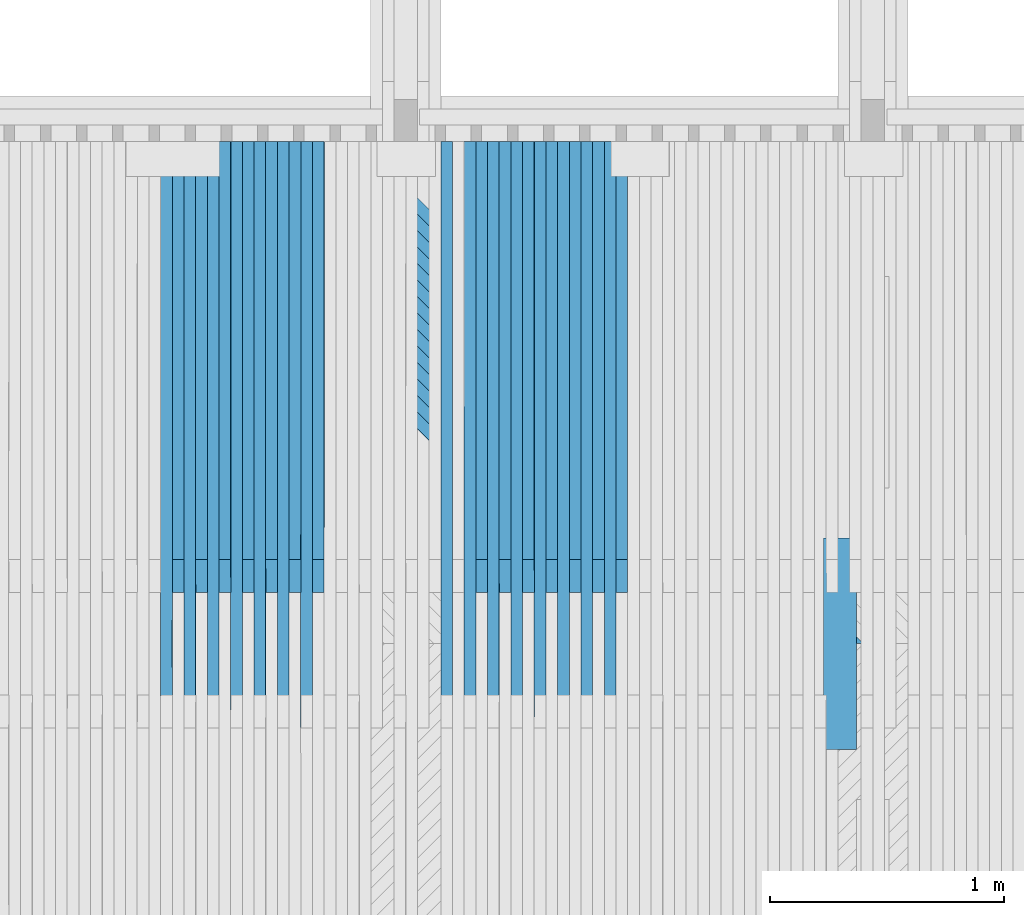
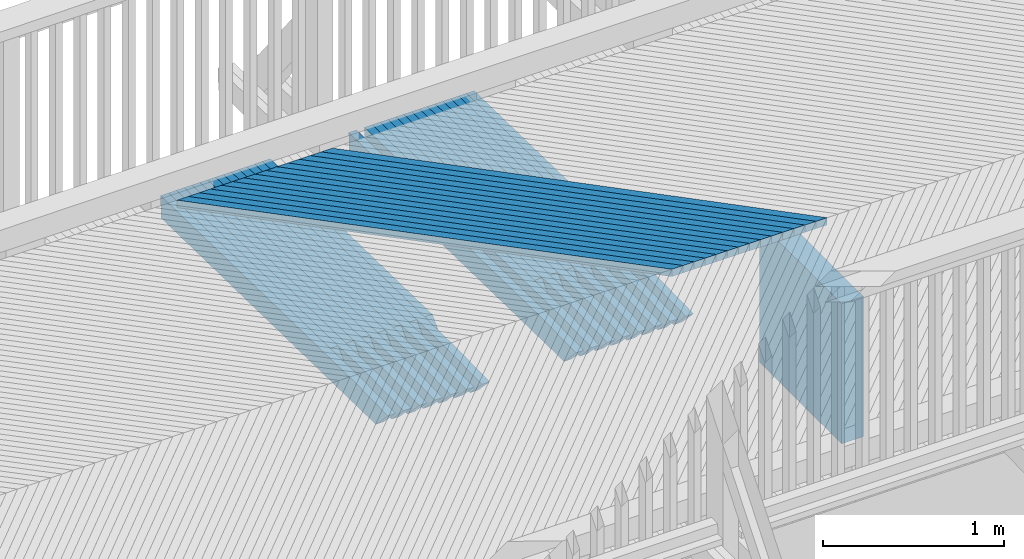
# One storey, part 26 of 53: 44 beams.
"""IFC2X3 building model written with IfcOpenShell, lengths in millimetres."""

from ifc_helpers import new_model, si_unit, frame, origin_with_axes, place, context, subcontext, project, spatial, faceted_brep, material, type_object, element, save


model = new_model("IFC2X3")

# Units and contexts
model_context = context("Model", 3, precision=1e-05, world=origin_with_axes())
body_context = subcontext(model_context, "Body", "Model", "MODEL_VIEW")
ifc_project = project(units=[si_unit("LENGTHUNIT", "METRE", prefix="MILLI"), si_unit("AREAUNIT", "SQUARE_METRE"), si_unit("VOLUMEUNIT", "CUBIC_METRE"), si_unit("MASSUNIT", "GRAM", prefix="KILO"), si_unit("TIMEUNIT", "SECOND"), si_unit("PLANEANGLEUNIT", "RADIAN"), si_unit("SOLIDANGLEUNIT", "STERADIAN"), si_unit("THERMODYNAMICTEMPERATUREUNIT", "DEGREE_CELSIUS"), si_unit("LUMINOUSINTENSITYUNIT", "LUMEN")], contexts=[model_context])

# Site, building, storey
site_placement = place(None, origin_with_axes())
site = spatial("IfcSite", under=ifc_project, at=site_placement, Name="Undefined", CompositionType="ELEMENT")
building_placement = place(site_placement, origin_with_axes())
building = spatial("IfcBuilding", under=site, at=building_placement, Name="Undefined", CompositionType="ELEMENT")
storey_placement = place(building_placement, origin_with_axes())
storey = spatial("IfcBuildingStorey", under=building, at=storey_placement, Name="Undefined", CompositionType="ELEMENT", Elevation=0.0)

# Beams
ifc_material = material(Name="TIMBER/Timber_Undefined")
beam_type_1 = type_object("IfcBeamType", Name="945*140", PredefinedType="NOTDEFINED")
beam_1_placement = place(storey_placement, frame((7860.0, 42817.5, 2542.6479002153), z_axis=(0.0, 0.0, 1.0), x_axis=(0.0, -1.0, 0.0)))
element("IfcBeam", 1, at=beam_1_placement, inside=storey, type_object=beam_type_1, material=ifc_material, Name="PALKKI", ObjectType="945*140", context=body_context, shape_type="Brep", body=[
    faceted_brep([(0.0, 70.0, -472.5), (0.0, 70.0, 472.5), (905.0, 70.0, 472.5), (905.0, 70.0, -472.5), (0.0, -70.0, 472.5), (905.0, -70.0, 472.5), (0.0, -70.0, -472.5), (905.0, -70.0, -472.5)], [[[0, 1, 2, 3]], [[1, 4, 5, 2]], [[4, 6, 7, 5]], [[6, 0, 3, 7]], [[5, 7, 3, 2]], [[6, 4, 1, 0]]]),
])
beam_type_2 = type_object("IfcBeamType", Name="50*50", PredefinedType="NOTDEFINED")
for number, where, z_axis, x_axis, name in (
    (2, (7923.63385700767, 42365.4998996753, 3236.11721724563), (0.70711609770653, 0.706981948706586, -0.0127807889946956), (-0.707094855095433, 0.706948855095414, -0.0154978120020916), "BEAM"),
    (3, (7852.9096247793, 42365.4998996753, 3236.10409357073), (0.707117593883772, 0.706981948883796, -0.0126977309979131), (-0.707093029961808, 0.706948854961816, -0.0155808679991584), "BEAM"),
    (4, (7782.18539458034, 42365.4998996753, 3236.082662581), (0.707119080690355, 0.706981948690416, -0.0126146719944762), (-0.707091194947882, 0.706948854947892, -0.0156639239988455), "BEAM"),
    (5, (7711.46116738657, 42365.4998996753, 3236.0529242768), (0.707120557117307, 0.706981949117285, -0.012531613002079), (-0.707089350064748, 0.706948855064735, -0.0157469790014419), "BEAM"),
    (6, (7640.73694417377, 42365.4998996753, 3236.01487865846), (0.707122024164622, 0.706981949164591, -0.0124485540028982), (-0.707087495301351, 0.706948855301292, -0.0158300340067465), "BEAM"),
    (7, (7570.01272591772, 42365.4998996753, 3235.96852572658), (0.707123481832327, 0.706981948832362, -0.0123654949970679), (-0.70708563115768, 0.706948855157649, -0.0159130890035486), "BEAM"),
    (8, (7499.28851359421, 42365.4998996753, 3235.91386548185), (0.707124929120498, 0.706981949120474, -0.012282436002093), (-0.707083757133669, 0.706948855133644, -0.015996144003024), "BEAM"),
    (9, (7428.56430817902, 42365.4998996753, 3235.85089792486), (0.707126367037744, 0.706981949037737, -0.0121993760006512), (-0.707081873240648, 0.706948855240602, -0.0160791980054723), "BEAM"),
    (10, (7357.84011064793, 42365.4998996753, 3235.77962305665), (0.707127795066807, 0.706981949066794, -0.0121163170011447), (-0.707079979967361, 0.706948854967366, -0.016162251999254), "BEAM"),
    (11, (7287.11592197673, 42365.4998996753, 3235.70004087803), (0.707129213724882, 0.706981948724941, -0.0120332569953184), (-0.707078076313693, 0.706948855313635, -0.0162453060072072), "BEAM"),
    (12, (7216.39174314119, 42365.4998996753, 3235.61215139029), (0.707130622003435, 0.706981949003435, -0.0119501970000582), (-0.707076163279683, 0.706948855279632, -0.0163283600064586), "BEAM"),
    (13, (7145.6675751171, 42365.4998996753, 3235.51595459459), (0.70713202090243, 0.706981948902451, -0.0118671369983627), (-0.707074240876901, 0.706948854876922, -0.0164114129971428), "BEAM"),
    (14, (7074.94341888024, 42365.4998996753, 3235.4114504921), (0.707133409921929, 0.706981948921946, -0.0117840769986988), (-0.707072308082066, 0.706948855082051, -0.0164944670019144), "BEAM"),
    (15, (7004.2192754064, 42365.4998996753, 3235.29863908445), (0.707134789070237, 0.706981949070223, -0.0117010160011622), (-0.707070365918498, 0.706948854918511, -0.0165775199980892), "BEAM"),
):
    element("IfcBeam", number, at=place(storey_placement, frame(where, z_axis=z_axis, x_axis=x_axis)), inside=storey, type_object=beam_type_2, material=ifc_material, Name=name, ObjectType="50*50", context=body_context, shape_type="Brep", body=[
        faceted_brep([(23.5869248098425, 25.0000000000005, -24.9999999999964), (-26.415415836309, 25.0000000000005, 25.0000000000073), (2802.92643296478, 25.0, 25.0), (2852.92877373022, 25.0, -25.0000000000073), (-25.001170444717, -24.9999999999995, 25.0000000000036), (2804.3406783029, -25.0, 24.9999999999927), (25.0011701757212, -24.9999999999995, -24.9999999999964), (2854.34301907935, -25.0, -25.0)], [[[0, 1, 2, 3]], [[1, 4, 5, 2]], [[4, 6, 7, 5]], [[6, 0, 3, 7]], [[5, 7, 3, 2]], [[6, 4, 1, 0]]]),
    ])
beam_type_3 = type_object("IfcBeamType", Name="150*50", PredefinedType="NOTDEFINED")
beam_2_placement = place(storey_placement, frame((6875.55134106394, 44513.4953923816, 3092.09976390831), z_axis=(-0.00194896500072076, 0.0199960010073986, 0.999798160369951), x_axis=(-3.89800000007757e-05, -0.999800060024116, 0.0199959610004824)))
element("IfcBeam", 16, at=beam_2_placement, inside=storey, type_object=beam_type_3, material=ifc_material, Name="BEAM", ObjectType="150*50", context=body_context, shape_type="Brep", body=[
    faceted_brep([(1.28420651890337e-08, -24.9999999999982, -74.9999999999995), (1.28420651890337e-08, 25.0000000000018, -75.0), (2375.00494422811, 25.0000000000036, -75.0), (2375.0049444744, -24.9999999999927, -74.9999999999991), (-1.28347892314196e-08, -24.9999999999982, 75.0), (-1.28347892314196e-08, 25.0, 75.0), (2150.42515052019, 25.0000000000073, 75.0), (2510.59248715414, 25.0000000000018, 60.5875433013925), (2510.5924871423, -24.9999999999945, 60.5875430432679), (2150.42514405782, -24.9999999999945, 75.0)], [[[0, 1, 2, 3]], [[0, 4, 5, 1]], [[2, 1, 5, 6, 7]], [[3, 2, 7, 8]], [[4, 0, 3, 8, 9]], [[5, 4, 9, 6]], [[8, 7, 6, 9]]]),
])
beam_3_placement = place(storey_placement, frame((6925.57129448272, 44513.4953923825, 3092.18896139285), z_axis=(-0.0017828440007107, 0.0199960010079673, 0.999798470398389), x_axis=(-3.5658000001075e-05, -0.999800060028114, 0.0199959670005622)))
element("IfcBeam", 17, at=beam_3_placement, inside=storey, type_object=beam_type_3, material=ifc_material, Name="BEAM", ObjectType="150*50", context=body_context, shape_type="Brep", body=[
    faceted_brep([(1.28420651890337e-08, -24.9999999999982, -74.9999999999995), (-1.28347892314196e-08, -24.9999999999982, 75.0), (-1.28347892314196e-08, 25.0, 75.0), (1.28420651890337e-08, 25.0000000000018, -75.0), (1928.42646328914, 24.9999999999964, -74.9999999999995), (1928.42646353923, -25.0000000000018, -75.0), (1789.96936433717, -25.0000000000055, 74.9999999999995), (1789.96936408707, 24.9999999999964, 75.0000000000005)], [[[0, 1, 2, 3]], [[0, 3, 4, 5]], [[1, 0, 5, 6]], [[2, 1, 6, 7]], [[3, 2, 7, 4]], [[4, 7, 6, 5]]]),
])
beam_4_placement = place(storey_placement, frame((6775.53149770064, 44513.4953923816, 3091.90462133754), z_axis=(-0.0021150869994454, 0.0199960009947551, 0.999797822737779), x_axis=(-4.23030000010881e-05, -0.999800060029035, 0.0199959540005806)))
element("IfcBeam", 18, at=beam_4_placement, inside=storey, type_object=beam_type_3, material=ifc_material, Name="BEAM", ObjectType="150*50", context=body_context, shape_type="Brep", body=[
    faceted_brep([(1.28420651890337e-08, -24.9999999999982, -74.9999999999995), (1.28420651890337e-08, 25.0000000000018, -75.0), (2375.00494422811, 25.0000000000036, -75.0), (2375.0049444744, -24.9999999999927, -74.9999999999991), (-1.28347892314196e-08, -24.9999999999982, 75.0), (-1.28347892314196e-08, 25.0, 75.0), (2150.42515052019, 25.0000000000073, 75.0), (2510.59248715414, 25.0000000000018, 60.5875433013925), (2510.5924871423, -24.9999999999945, 60.5875430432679), (2150.42514405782, -24.9999999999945, 75.0)], [[[0, 1, 2, 3]], [[0, 4, 5, 1]], [[2, 1, 5, 6, 7]], [[3, 2, 7, 8]], [[4, 0, 3, 8, 9]], [[5, 4, 9, 6]], [[8, 7, 6, 9]]]),
])
beam_5_placement = place(storey_placement, frame((6825.55143560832, 44513.4953923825, 3092.0021299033), z_axis=(-0.00194896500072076, 0.0199960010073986, 0.999798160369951), x_axis=(-3.89800000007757e-05, -0.999800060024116, 0.0199959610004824)))
element("IfcBeam", 19, at=beam_5_placement, inside=storey, type_object=beam_type_3, material=ifc_material, Name="BEAM", ObjectType="150*50", context=body_context, shape_type="Brep", body=[
    faceted_brep([(1.28420651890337e-08, -24.9999999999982, -74.9999999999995), (-1.28347892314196e-08, -24.9999999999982, 75.0), (-1.28347892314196e-08, 25.0, 75.0), (1.28420651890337e-08, 25.0000000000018, -75.0), (1928.42646328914, 24.9999999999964, -74.9999999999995), (1928.42646353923, -25.0000000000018, -75.0), (1789.96936433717, -25.0000000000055, 74.9999999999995), (1789.96936408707, 24.9999999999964, 75.0000000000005)], [[[0, 1, 2, 3]], [[0, 3, 4, 5]], [[1, 0, 5, 6]], [[2, 1, 6, 7]], [[3, 2, 7, 4]], [[4, 7, 6, 5]]]),
])
beam_6_placement = place(storey_placement, frame((6675.51168814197, 44513.4953923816, 3091.6928599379), z_axis=(-0.00228120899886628, 0.019996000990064, 0.999797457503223), x_axis=(-4.5625000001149e-05, -0.99980006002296, 0.0199959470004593)))
element("IfcBeam", 20, at=beam_6_placement, inside=storey, type_object=beam_type_3, material=ifc_material, Name="BEAM", ObjectType="150*50", context=body_context, shape_type="Brep", body=[
    faceted_brep([(1.28420651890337e-08, -24.9999999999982, -74.9999999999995), (1.28420651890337e-08, 25.0000000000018, -75.0), (2375.00494422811, 25.0000000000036, -75.0), (2375.0049444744, -24.9999999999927, -74.9999999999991), (-1.28347892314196e-08, -24.9999999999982, 75.0), (-1.28347892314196e-08, 25.0, 75.0), (2150.42515052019, 25.0000000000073, 75.0), (2510.59248715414, 25.0000000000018, 60.5875433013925), (2510.5924871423, -24.9999999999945, 60.5875430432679), (2150.42514405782, -24.9999999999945, 75.0)], [[[0, 1, 2, 3]], [[0, 4, 5, 1]], [[2, 1, 5, 6, 7]], [[3, 2, 7, 8]], [[4, 0, 3, 8, 9]], [[5, 4, 9, 6]], [[8, 7, 6, 9]]]),
])
beam_7_placement = place(storey_placement, frame((6725.53160915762, 44513.4953923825, 3091.79867958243), z_axis=(-0.0021150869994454, 0.0199960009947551, 0.999797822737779), x_axis=(-4.23030000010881e-05, -0.999800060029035, 0.0199959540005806)))
element("IfcBeam", 21, at=beam_7_placement, inside=storey, type_object=beam_type_3, material=ifc_material, Name="BEAM", ObjectType="150*50", context=body_context, shape_type="Brep", body=[
    faceted_brep([(1.28420651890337e-08, -24.9999999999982, -74.9999999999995), (-1.28347892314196e-08, -24.9999999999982, 75.0), (-1.28347892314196e-08, 25.0, 75.0), (1.28420651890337e-08, 25.0000000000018, -75.0), (1928.42646328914, 24.9999999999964, -74.9999999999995), (1928.42646353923, -25.0000000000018, -75.0), (1789.96936433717, -25.0000000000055, 74.9999999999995), (1789.96936408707, 24.9999999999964, 75.0000000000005)], [[[0, 1, 2, 3]], [[0, 3, 4, 5]], [[1, 0, 5, 6]], [[2, 1, 6, 7]], [[3, 2, 7, 4]], [[4, 7, 6, 5]]]),
])
beam_8_placement = place(storey_placement, frame((6575.49191514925, 44513.4953923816, 3091.46447971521), z_axis=(-0.00244733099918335, 0.0199960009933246, 0.999797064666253), x_axis=(-4.894700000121e-05, -0.999800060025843, 0.0199959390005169)))
element("IfcBeam", 22, at=beam_8_placement, inside=storey, type_object=beam_type_3, material=ifc_material, Name="BEAM", ObjectType="150*50", context=body_context, shape_type="Brep", body=[
    faceted_brep([(1.28420651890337e-08, -24.9999999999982, -74.9999999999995), (1.28420651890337e-08, 25.0000000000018, -75.0), (2375.00494422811, 25.0000000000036, -75.0), (2375.0049444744, -24.9999999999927, -74.9999999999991), (-1.28347892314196e-08, -24.9999999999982, 75.0), (-1.28347892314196e-08, 25.0, 75.0), (2150.42515052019, 25.0000000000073, 75.0), (2510.59248715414, 25.0000000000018, 60.5875433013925), (2510.5924871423, -24.9999999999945, 60.5875430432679), (2150.42514405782, -24.9999999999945, 75.0)], [[[0, 1, 2, 3]], [[0, 4, 5, 1]], [[2, 1, 5, 6, 7]], [[3, 2, 7, 8]], [[4, 0, 3, 8, 9]], [[5, 4, 9, 6]], [[8, 7, 6, 9]]]),
])
beam_9_placement = place(storey_placement, frame((6625.51181789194, 44513.4953923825, 3091.57861043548), z_axis=(-0.00228120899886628, 0.019996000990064, 0.999797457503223), x_axis=(-4.5625000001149e-05, -0.99980006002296, 0.0199959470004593)))
element("IfcBeam", 23, at=beam_9_placement, inside=storey, type_object=beam_type_3, material=ifc_material, Name="BEAM", ObjectType="150*50", context=body_context, shape_type="Brep", body=[
    faceted_brep([(1.28420651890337e-08, -24.9999999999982, -74.9999999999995), (-1.28347892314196e-08, -24.9999999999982, 75.0), (-1.28347892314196e-08, 25.0, 75.0), (1.28420651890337e-08, 25.0000000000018, -75.0), (1928.42646328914, 24.9999999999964, -74.9999999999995), (1928.42646353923, -25.0000000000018, -75.0), (1789.96936433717, -25.0000000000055, 74.9999999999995), (1789.96936408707, 24.9999999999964, 75.0000000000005)], [[[0, 1, 2, 3]], [[0, 3, 4, 5]], [[1, 0, 5, 6]], [[2, 1, 6, 7]], [[3, 2, 7, 4]], [[4, 7, 6, 5]]]),
])
beam_10_placement = place(storey_placement, frame((6475.47218148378, 44513.4953923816, 3091.21948067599), z_axis=(-0.00261345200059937, 0.0199960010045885, 0.999796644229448), x_axis=(-5.22700000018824e-05, -0.999800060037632, 0.0199959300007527)))
element("IfcBeam", 24, at=beam_10_placement, inside=storey, type_object=beam_type_3, material=ifc_material, Name="BEAM", ObjectType="150*50", context=body_context, shape_type="Brep", body=[
    faceted_brep([(1.28420651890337e-08, -24.9999999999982, -74.9999999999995), (1.28420651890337e-08, 25.0000000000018, -75.0), (2375.00494422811, 25.0000000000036, -75.0), (2375.0049444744, -24.9999999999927, -74.9999999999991), (-1.28347892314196e-08, -24.9999999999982, 75.0), (-1.28347892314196e-08, 25.0, 75.0), (2150.42515052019, 25.0000000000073, 75.0), (2510.59248715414, 25.0000000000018, 60.5875433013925), (2510.5924871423, -24.9999999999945, 60.5875430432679), (2150.42514405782, -24.9999999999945, 75.0)], [[[0, 1, 2, 3]], [[0, 4, 5, 1]], [[2, 1, 5, 6, 7]], [[3, 2, 7, 8]], [[4, 0, 3, 8, 9]], [[5, 4, 9, 6]], [[8, 7, 6, 9]]]),
])
beam_11_placement = place(storey_placement, frame((6525.49206457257, 44513.4953923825, 3091.34192246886), z_axis=(-0.00244733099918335, 0.0199960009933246, 0.999797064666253), x_axis=(-4.894700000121e-05, -0.999800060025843, 0.0199959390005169)))
element("IfcBeam", 25, at=beam_11_placement, inside=storey, type_object=beam_type_3, material=ifc_material, Name="BEAM", ObjectType="150*50", context=body_context, shape_type="Brep", body=[
    faceted_brep([(1.28420651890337e-08, -24.9999999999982, -74.9999999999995), (-1.28347892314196e-08, -24.9999999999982, 75.0), (-1.28347892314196e-08, 25.0, 75.0), (1.28420651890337e-08, 25.0000000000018, -75.0), (1928.42646328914, 24.9999999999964, -74.9999999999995), (1928.42646353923, -25.0000000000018, -75.0), (1789.96936433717, -25.0000000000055, 74.9999999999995), (1789.96936408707, 24.9999999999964, 75.0000000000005)], [[[0, 1, 2, 3]], [[0, 3, 4, 5]], [[1, 0, 5, 6]], [[2, 1, 6, 7]], [[3, 2, 7, 4]], [[4, 7, 6, 5]]]),
])
beam_12_placement = place(storey_placement, frame((6375.45248990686, 44513.4953923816, 3090.957862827), z_axis=(-0.00277957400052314, 0.0199960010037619, 0.99979619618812), x_axis=(-5.55920000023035e-05, -0.999800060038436, 0.0199959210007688)))
element("IfcBeam", 26, at=beam_12_placement, inside=storey, type_object=beam_type_3, material=ifc_material, Name="BEAM", ObjectType="150*50", context=body_context, shape_type="Brep", body=[
    faceted_brep([(1.28420651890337e-08, -24.9999999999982, -74.9999999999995), (1.28420651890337e-08, 25.0000000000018, -75.0), (2375.00494422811, 25.0000000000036, -75.0), (2375.0049444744, -24.9999999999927, -74.9999999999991), (-1.28347892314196e-08, -24.9999999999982, 75.0), (-1.28347892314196e-08, 25.0, 75.0), (2150.42515052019, 25.0000000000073, 75.0), (2510.59248715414, 25.0000000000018, 60.5875433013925), (2510.5924871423, -24.9999999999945, 60.5875430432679), (2150.42514405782, -24.9999999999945, 75.0)], [[[0, 1, 2, 3]], [[0, 4, 5, 1]], [[2, 1, 5, 6, 7]], [[3, 2, 7, 8]], [[4, 0, 3, 8, 9]], [[5, 4, 9, 6]], [[8, 7, 6, 9]]]),
])
beam_13_placement = place(storey_placement, frame((6425.47235196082, 44513.4953923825, 3091.08861568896), z_axis=(-0.00261345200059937, 0.0199960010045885, 0.999796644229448), x_axis=(-5.22700000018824e-05, -0.999800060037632, 0.0199959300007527)))
element("IfcBeam", 27, at=beam_13_placement, inside=storey, type_object=beam_type_3, material=ifc_material, Name="BEAM", ObjectType="150*50", context=body_context, shape_type="Brep", body=[
    faceted_brep([(1.28420651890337e-08, -24.9999999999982, -74.9999999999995), (-1.28347892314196e-08, -24.9999999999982, 75.0), (-1.28347892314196e-08, 25.0, 75.0), (1.28420651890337e-08, 25.0000000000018, -75.0), (1928.42646328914, 24.9999999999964, -74.9999999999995), (1928.42646353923, -25.0000000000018, -75.0), (1789.96936433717, -25.0000000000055, 74.9999999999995), (1789.96936408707, 24.9999999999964, 75.0000000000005)], [[[0, 1, 2, 3]], [[0, 3, 4, 5]], [[1, 0, 5, 6]], [[2, 1, 6, 7]], [[3, 2, 7, 4]], [[4, 7, 6, 5]]]),
])
beam_14_placement = place(storey_placement, frame((6275.43284317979, 44513.4953923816, 3090.6796261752), z_axis=(-0.00294569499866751, 0.019996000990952, 0.999795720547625), x_axis=(-5.89150000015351e-05, -0.999800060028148, 0.019995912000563)))
element("IfcBeam", 28, at=beam_14_placement, inside=storey, type_object=beam_type_3, material=ifc_material, Name="BEAM", ObjectType="150*50", context=body_context, shape_type="Brep", body=[
    faceted_brep([(1.28420651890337e-08, -24.9999999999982, -74.9999999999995), (1.28420651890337e-08, 25.0000000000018, -75.0), (2375.00494422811, 25.0000000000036, -75.0), (2375.0049444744, -24.9999999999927, -74.9999999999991), (-1.28347892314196e-08, -24.9999999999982, 75.0), (-1.28347892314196e-08, 25.0, 75.0), (2150.42515052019, 25.0000000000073, 75.0), (2510.59248715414, 25.0000000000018, 60.5875433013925), (2510.5924871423, -24.9999999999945, 60.5875430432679), (2150.42514405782, -24.9999999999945, 75.0)], [[[0, 1, 2, 3]], [[0, 4, 5, 1]], [[2, 1, 5, 6, 7]], [[3, 2, 7, 8]], [[4, 0, 3, 8, 9]], [[5, 4, 9, 6]], [[8, 7, 6, 9]]]),
])
beam_15_placement = place(storey_placement, frame((6325.45268281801, 44513.4953923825, 3090.81869010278), z_axis=(-0.00277957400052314, 0.0199960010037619, 0.99979619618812), x_axis=(-5.55920000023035e-05, -0.999800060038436, 0.0199959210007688)))
element("IfcBeam", 29, at=beam_15_placement, inside=storey, type_object=beam_type_3, material=ifc_material, Name="BEAM", ObjectType="150*50", context=body_context, shape_type="Brep", body=[
    faceted_brep([(1.28420651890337e-08, -24.9999999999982, -74.9999999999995), (-1.28347892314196e-08, -24.9999999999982, 75.0), (-1.28347892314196e-08, 25.0, 75.0), (1.28420651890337e-08, 25.0000000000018, -75.0), (1928.42646328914, 24.9999999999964, -74.9999999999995), (1928.42646353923, -25.0000000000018, -75.0), (1789.96936433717, -25.0000000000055, 74.9999999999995), (1789.96936408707, 24.9999999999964, 75.0000000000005)], [[[0, 1, 2, 3]], [[0, 3, 4, 5]], [[1, 0, 5, 6]], [[2, 1, 6, 7]], [[3, 2, 7, 4]], [[4, 7, 6, 5]]]),
])
for number, where, z_axis, x_axis, name in (
    (30, (6175.41324406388, 44513.4953923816, 3090.38477072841), (-0.00311234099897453, 0.0199960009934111, 0.999795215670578), (-6.22370000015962e-05, -0.999800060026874, 0.0199959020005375), "BEAM"),
    (31, (5575.89680370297, 44513.4953923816, 3088.2670426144), (-0.00410854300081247, 0.0199960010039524, 0.999791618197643), (-8.21720000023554e-05, -0.99980006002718, 0.0199958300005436), "BEAM"),
):
    element("IfcBeam", number, at=place(storey_placement, frame(where, z_axis=z_axis, x_axis=x_axis)), inside=storey, type_object=beam_type_3, material=ifc_material, Name=name, ObjectType="150*50", context=body_context, shape_type="Brep", body=[
        faceted_brep([(1.28420651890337e-08, -24.9999999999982, -74.9999999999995), (1.28420651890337e-08, 25.0000000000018, -75.0), (2375.00494422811, 25.0000000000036, -75.0), (2375.0049444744, -24.9999999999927, -74.9999999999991), (-1.28347892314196e-08, -24.9999999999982, 75.0), (-1.28347892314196e-08, 25.0, 75.0), (2150.42515052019, 25.0000000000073, 75.0), (2510.59248715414, 25.0000000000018, 60.5875433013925), (2510.5924871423, -24.9999999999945, 60.5875430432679), (2150.42514405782, -24.9999999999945, 75.0)], [[[0, 1, 2, 3]], [[0, 4, 5, 1]], [[2, 1, 5, 6, 7]], [[3, 2, 7, 8]], [[4, 0, 3, 8, 9]], [[5, 4, 9, 6]], [[8, 7, 6, 9]]]),
    ])
beam_16_placement = place(storey_placement, frame((5625.916447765, 44513.4953923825, 3088.46428388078), z_axis=(-0.00394242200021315, 0.0199960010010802, 0.999792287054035), x_axis=(-7.88490000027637e-05, -0.999800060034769, 0.0199958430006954)))
element("IfcBeam", 32, at=beam_16_placement, inside=storey, type_object=beam_type_3, material=ifc_material, Name="BEAM", ObjectType="150*50", context=body_context, shape_type="Brep", body=[
    faceted_brep([(1.28420651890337e-08, -24.9999999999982, -74.9999999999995), (-1.28347892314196e-08, -24.9999999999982, 75.0), (-1.28347892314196e-08, 25.0, 75.0), (1.28420651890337e-08, 25.0000000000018, -75.0), (1928.42646328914, 24.9999999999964, -74.9999999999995), (1928.42646353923, -25.0000000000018, -75.0), (1789.96936433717, -25.0000000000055, 74.9999999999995), (1789.96936408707, 24.9999999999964, 75.0000000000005)], [[[0, 1, 2, 3]], [[0, 3, 4, 5]], [[1, 0, 5, 6]], [[2, 1, 6, 7]], [[3, 2, 7, 4]], [[4, 7, 6, 5]]]),
])
beam_17_placement = place(storey_placement, frame((5475.87761510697, 44513.4953923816, 3087.85595554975), z_axis=(-0.00427466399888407, 0.0199960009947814, 0.999790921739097), x_axis=(-8.54940000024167e-05, -0.999800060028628, 0.0199958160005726)))
element("IfcBeam", 33, at=beam_17_placement, inside=storey, type_object=beam_type_3, material=ifc_material, Name="BEAM", ObjectType="150*50", context=body_context, shape_type="Brep", body=[
    faceted_brep([(1.28420651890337e-08, -24.9999999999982, -74.9999999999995), (1.28420651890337e-08, 25.0000000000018, -75.0), (2375.00494422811, 25.0000000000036, -75.0), (2375.0049444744, -24.9999999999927, -74.9999999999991), (-1.28347892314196e-08, -24.9999999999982, 75.0), (-1.28347892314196e-08, 25.0, 75.0), (2150.42515052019, 25.0000000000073, 75.0), (2510.59248715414, 25.0000000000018, 60.5875433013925), (2510.5924871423, -24.9999999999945, 60.5875430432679), (2150.42514405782, -24.9999999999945, 75.0)], [[[0, 1, 2, 3]], [[0, 4, 5, 1]], [[2, 1, 5, 6, 7]], [[3, 2, 7, 8]], [[4, 0, 3, 8, 9]], [[5, 4, 9, 6]], [[8, 7, 6, 9]]]),
])
beam_18_placement = place(storey_placement, frame((5525.89722570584, 44513.4953923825, 3088.06150784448), z_axis=(-0.00410854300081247, 0.0199960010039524, 0.999791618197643), x_axis=(-8.21720000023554e-05, -0.99980006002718, 0.0199958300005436)))
element("IfcBeam", 34, at=beam_18_placement, inside=storey, type_object=beam_type_3, material=ifc_material, Name="BEAM", ObjectType="150*50", context=body_context, shape_type="Brep", body=[
    faceted_brep([(1.28420651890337e-08, -24.9999999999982, -74.9999999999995), (-1.28347892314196e-08, -24.9999999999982, 75.0), (-1.28347892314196e-08, 25.0, 75.0), (1.28420651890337e-08, 25.0000000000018, -75.0), (1928.42646328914, 24.9999999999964, -74.9999999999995), (1928.42646353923, -25.0000000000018, -75.0), (1789.96936433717, -25.0000000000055, 74.9999999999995), (1789.96936408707, 24.9999999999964, 75.0000000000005)], [[[0, 1, 2, 3]], [[0, 3, 4, 5]], [[1, 0, 5, 6]], [[2, 1, 6, 7]], [[3, 2, 7, 4]], [[4, 7, 6, 5]]]),
])
beam_19_placement = place(storey_placement, frame((5375.85849619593, 44513.4953923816, 3087.42824976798), z_axis=(-0.0044407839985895, 0.0199960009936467, 0.999790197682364), x_axis=(-8.88170000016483e-05, -0.999800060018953, 0.0199958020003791)))
element("IfcBeam", 35, at=beam_19_placement, inside=storey, type_object=beam_type_3, material=ifc_material, Name="BEAM", ObjectType="150*50", context=body_context, shape_type="Brep", body=[
    faceted_brep([(1.28420651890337e-08, -24.9999999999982, -74.9999999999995), (1.28420651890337e-08, 25.0000000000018, -75.0), (2375.00494422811, 25.0000000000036, -75.0), (2375.0049444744, -24.9999999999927, -74.9999999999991), (-1.28347892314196e-08, -24.9999999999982, 75.0), (-1.28347892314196e-08, 25.0, 75.0), (2150.42515052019, 25.0000000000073, 75.0), (2510.59248715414, 25.0000000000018, 60.5875433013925), (2510.5924871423, -24.9999999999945, 60.5875430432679), (2150.42514405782, -24.9999999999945, 75.0)], [[[0, 1, 2, 3]], [[0, 4, 5, 1]], [[2, 1, 5, 6, 7]], [[3, 2, 7, 8]], [[4, 0, 3, 8, 9]], [[5, 4, 9, 6]], [[8, 7, 6, 9]]]),
])
beam_20_placement = place(storey_placement, frame((5425.87807195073, 44513.4953923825, 3087.6421130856), z_axis=(-0.00427466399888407, 0.0199960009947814, 0.999790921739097), x_axis=(-8.54940000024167e-05, -0.999800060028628, 0.0199958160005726)))
element("IfcBeam", 36, at=beam_20_placement, inside=storey, type_object=beam_type_3, material=ifc_material, Name="BEAM", ObjectType="150*50", context=body_context, shape_type="Brep", body=[
    faceted_brep([(1.28420651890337e-08, -24.9999999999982, -74.9999999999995), (-1.28347892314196e-08, -24.9999999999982, 75.0), (-1.28347892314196e-08, 25.0, 75.0), (1.28420651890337e-08, 25.0000000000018, -75.0), (1928.42646328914, 24.9999999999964, -74.9999999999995), (1928.42646353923, -25.0000000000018, -75.0), (1789.96936433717, -25.0000000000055, 74.9999999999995), (1789.96936408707, 24.9999999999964, 75.0000000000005)], [[[0, 1, 2, 3]], [[0, 3, 4, 5]], [[1, 0, 5, 6]], [[2, 1, 6, 7]], [[3, 2, 7, 4]], [[4, 7, 6, 5]]]),
])
beam_21_placement = place(storey_placement, frame((5275.83944973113, 44513.4953923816, 3086.98392528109), z_axis=(-0.00460690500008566, 0.0199960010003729, 0.999789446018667), x_axis=(-9.21390000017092e-05, -0.999800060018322, 0.0199957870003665)))
element("IfcBeam", 37, at=beam_21_placement, inside=storey, type_object=beam_type_3, material=ifc_material, Name="BEAM", ObjectType="150*50", context=body_context, shape_type="Brep", body=[
    faceted_brep([(1.28420651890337e-08, -24.9999999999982, -74.9999999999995), (1.28420651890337e-08, 25.0000000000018, -75.0), (2375.00494422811, 25.0000000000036, -75.0), (2375.0049444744, -24.9999999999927, -74.9999999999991), (-1.28347892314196e-08, -24.9999999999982, 75.0), (-1.28347892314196e-08, 25.0, 75.0), (2150.42515052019, 25.0000000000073, 75.0), (2510.59248715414, 25.0000000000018, 60.5875433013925), (2510.5924871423, -24.9999999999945, 60.5875430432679), (2150.42514405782, -24.9999999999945, 75.0)], [[[0, 1, 2, 3]], [[0, 4, 5, 1]], [[2, 1, 5, 6, 7]], [[3, 2, 7, 8]], [[4, 0, 3, 8, 9]], [[5, 4, 9, 6]], [[8, 7, 6, 9]]]),
])
beam_22_placement = place(storey_placement, frame((5325.85898926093, 44513.4953923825, 3087.20609961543), z_axis=(-0.0044407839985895, 0.0199960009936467, 0.999790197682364), x_axis=(-8.88170000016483e-05, -0.999800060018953, 0.0199958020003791)))
element("IfcBeam", 38, at=beam_22_placement, inside=storey, type_object=beam_type_3, material=ifc_material, Name="BEAM", ObjectType="150*50", context=body_context, shape_type="Brep", body=[
    faceted_brep([(1.28420651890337e-08, -24.9999999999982, -74.9999999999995), (-1.28347892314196e-08, -24.9999999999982, 75.0), (-1.28347892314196e-08, 25.0, 75.0), (1.28420651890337e-08, 25.0000000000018, -75.0), (1928.42646328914, 24.9999999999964, -74.9999999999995), (1928.42646353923, -25.0000000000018, -75.0), (1789.96936433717, -25.0000000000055, 74.9999999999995), (1789.96936408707, 24.9999999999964, 75.0000000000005)], [[[0, 1, 2, 3]], [[0, 3, 4, 5]], [[1, 0, 5, 6]], [[2, 1, 6, 7]], [[3, 2, 7, 4]], [[4, 7, 6, 5]]]),
])
beam_23_placement = place(storey_placement, frame((5175.82047847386, 44513.4953923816, 3086.52298210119), z_axis=(-0.00477302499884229, 0.0199960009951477, 0.999788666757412), x_axis=(-9.54610000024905e-05, -0.999800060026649, 0.019995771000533)))
element("IfcBeam", 39, at=beam_23_placement, inside=storey, type_object=beam_type_3, material=ifc_material, Name="BEAM", ObjectType="150*50", context=body_context, shape_type="Brep", body=[
    faceted_brep([(1.28420651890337e-08, -24.9999999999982, -74.9999999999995), (1.28420651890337e-08, 25.0000000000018, -75.0), (2375.00494422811, 25.0000000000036, -75.0), (2375.0049444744, -24.9999999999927, -74.9999999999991), (-1.28347892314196e-08, -24.9999999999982, 75.0), (-1.28347892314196e-08, 25.0, 75.0), (2150.42515052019, 25.0000000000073, 75.0), (2510.59248715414, 25.0000000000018, 60.5875433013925), (2510.5924871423, -24.9999999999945, 60.5875430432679), (2150.42514405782, -24.9999999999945, 75.0)], [[[0, 1, 2, 3]], [[0, 4, 5, 1]], [[2, 1, 5, 6, 7]], [[3, 2, 7, 8]], [[4, 0, 3, 8, 9]], [[5, 4, 9, 6]], [[8, 7, 6, 9]]]),
])
beam_24_placement = place(storey_placement, frame((5225.83998039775, 44513.4953923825, 3086.75346744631), z_axis=(-0.00460690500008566, 0.0199960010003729, 0.999789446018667), x_axis=(-9.21390000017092e-05, -0.999800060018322, 0.0199957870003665)))
element("IfcBeam", 40, at=beam_24_placement, inside=storey, type_object=beam_type_3, material=ifc_material, Name="BEAM", ObjectType="150*50", context=body_context, shape_type="Brep", body=[
    faceted_brep([(1.28420651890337e-08, -24.9999999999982, -74.9999999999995), (-1.28347892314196e-08, -24.9999999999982, 75.0), (-1.28347892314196e-08, 25.0, 75.0), (1.28420651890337e-08, 25.0000000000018, -75.0), (1928.42646328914, 24.9999999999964, -74.9999999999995), (1928.42646353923, -25.0000000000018, -75.0), (1789.96936433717, -25.0000000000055, 74.9999999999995), (1789.96936408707, 24.9999999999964, 75.0000000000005)], [[[0, 1, 2, 3]], [[0, 3, 4, 5]], [[1, 0, 5, 6]], [[2, 1, 6, 7]], [[3, 2, 7, 4]], [[4, 7, 6, 5]]]),
])
beam_25_placement = place(storey_placement, frame((5075.8015851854, 44513.4953923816, 3086.04542024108), z_axis=(-0.004939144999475, 0.0199960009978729, 0.999787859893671), x_axis=(-9.87840000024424e-05, -0.999800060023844, 0.0199957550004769)))
element("IfcBeam", 41, at=beam_25_placement, inside=storey, type_object=beam_type_3, material=ifc_material, Name="BEAM", ObjectType="150*50", context=body_context, shape_type="Brep", body=[
    faceted_brep([(1.28420651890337e-08, -24.9999999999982, -74.9999999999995), (1.28420651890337e-08, 25.0000000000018, -75.0), (2375.00494422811, 25.0000000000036, -75.0), (2375.0049444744, -24.9999999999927, -74.9999999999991), (-1.28347892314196e-08, -24.9999999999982, 75.0), (-1.28347892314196e-08, 25.0, 75.0), (2150.42515052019, 25.0000000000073, 75.0), (2510.59248715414, 25.0000000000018, 60.5875433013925), (2510.5924871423, -24.9999999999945, 60.5875430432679), (2150.42514405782, -24.9999999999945, 75.0)], [[[0, 1, 2, 3]], [[0, 4, 5, 1]], [[2, 1, 5, 6, 7]], [[3, 2, 7, 8]], [[4, 0, 3, 8, 9]], [[5, 4, 9, 6]], [[8, 7, 6, 9]]]),
])
beam_26_placement = place(storey_placement, frame((5125.82104812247, 44513.4953923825, 3086.28421659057), z_axis=(-0.00477302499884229, 0.0199960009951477, 0.999788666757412), x_axis=(-9.54610000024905e-05, -0.999800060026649, 0.019995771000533)))
element("IfcBeam", 42, at=beam_26_placement, inside=storey, type_object=beam_type_3, material=ifc_material, Name="BEAM", ObjectType="150*50", context=body_context, shape_type="Brep", body=[
    faceted_brep([(1.28420651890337e-08, -24.9999999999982, -74.9999999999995), (-1.28347892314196e-08, -24.9999999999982, 75.0), (-1.28347892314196e-08, 25.0, 75.0), (1.28420651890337e-08, 25.0000000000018, -75.0), (1928.42646328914, 24.9999999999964, -74.9999999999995), (1928.42646353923, -25.0000000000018, -75.0), (1789.96936433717, -25.0000000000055, 74.9999999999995), (1789.96936408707, 24.9999999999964, 75.0000000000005)], [[[0, 1, 2, 3]], [[0, 3, 4, 5]], [[1, 0, 5, 6]], [[2, 1, 6, 7]], [[3, 2, 7, 4]], [[4, 7, 6, 5]]]),
])
beam_27_placement = place(storey_placement, frame((4975.78277262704, 44513.4953923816, 3085.55123971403), z_axis=(-0.00510526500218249, 0.0199960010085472, 0.999787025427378), x_axis=(-0.000102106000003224, -0.999800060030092, 0.0199957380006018)))
element("IfcBeam", 43, at=beam_27_placement, inside=storey, type_object=beam_type_3, material=ifc_material, Name="BEAM", ObjectType="150*50", context=body_context, shape_type="Brep", body=[
    faceted_brep([(1.28420651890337e-08, -24.9999999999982, -74.9999999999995), (1.28420651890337e-08, 25.0000000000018, -75.0), (2375.00494422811, 25.0000000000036, -75.0), (2375.0049444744, -24.9999999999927, -74.9999999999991), (-1.28347892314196e-08, -24.9999999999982, 75.0), (-1.28347892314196e-08, 25.0, 75.0), (2150.42515052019, 25.0000000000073, 75.0), (2510.59248715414, 25.0000000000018, 60.5875433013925), (2510.5924871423, -24.9999999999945, 60.5875430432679), (2150.42514405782, -24.9999999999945, 75.0)], [[[0, 1, 2, 3]], [[0, 4, 5, 1]], [[2, 1, 5, 6, 7]], [[3, 2, 7, 8]], [[4, 0, 3, 8, 9]], [[5, 4, 9, 6]], [[8, 7, 6, 9]]]),
])
beam_28_placement = place(storey_placement, frame((5025.80219519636, 44513.4953923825, 3085.79834706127), z_axis=(-0.004939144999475, 0.0199960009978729, 0.999787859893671), x_axis=(-9.87840000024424e-05, -0.999800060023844, 0.0199957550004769)))
element("IfcBeam", 44, at=beam_28_placement, inside=storey, type_object=beam_type_3, material=ifc_material, Name="BEAM", ObjectType="150*50", context=body_context, shape_type="Brep", body=[
    faceted_brep([(1.28420651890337e-08, -24.9999999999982, -74.9999999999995), (-1.28347892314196e-08, -24.9999999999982, 75.0), (-1.28347892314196e-08, 25.0, 75.0), (1.28420651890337e-08, 25.0000000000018, -75.0), (1928.42646328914, 24.9999999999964, -74.9999999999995), (1928.42646353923, -25.0000000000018, -75.0), (1789.96936433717, -25.0000000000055, 74.9999999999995), (1789.96936408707, 24.9999999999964, 75.0000000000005)], [[[0, 1, 2, 3]], [[0, 3, 4, 5]], [[1, 0, 5, 6]], [[2, 1, 6, 7]], [[3, 2, 7, 4]], [[4, 7, 6, 5]]]),
])

save(model, "model.ifc")
